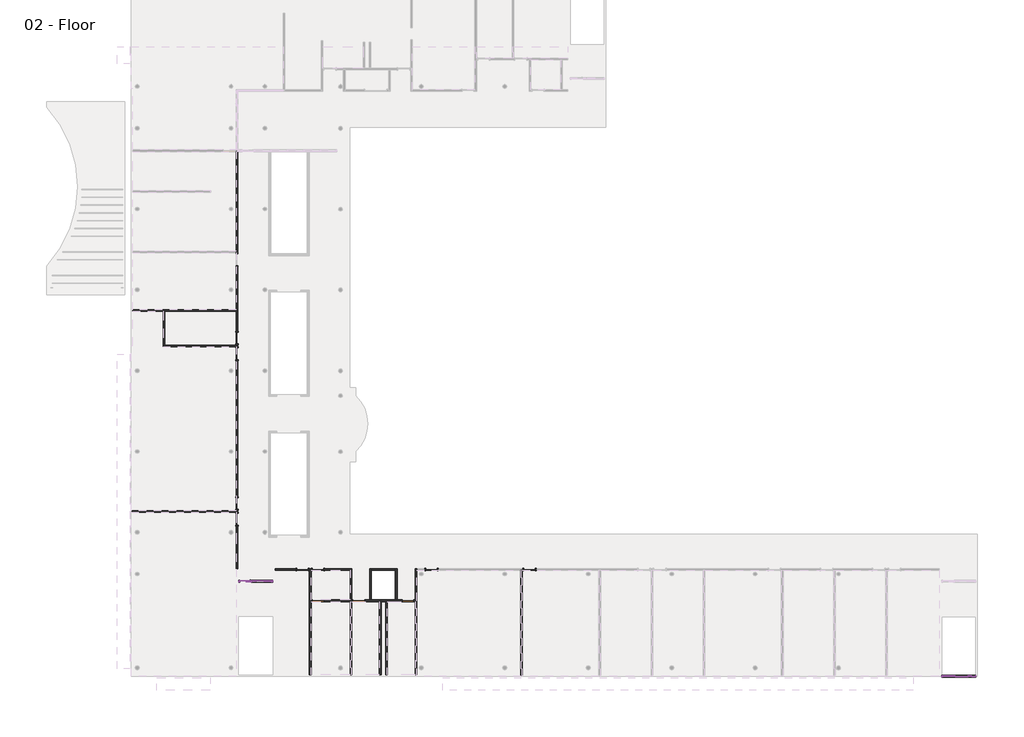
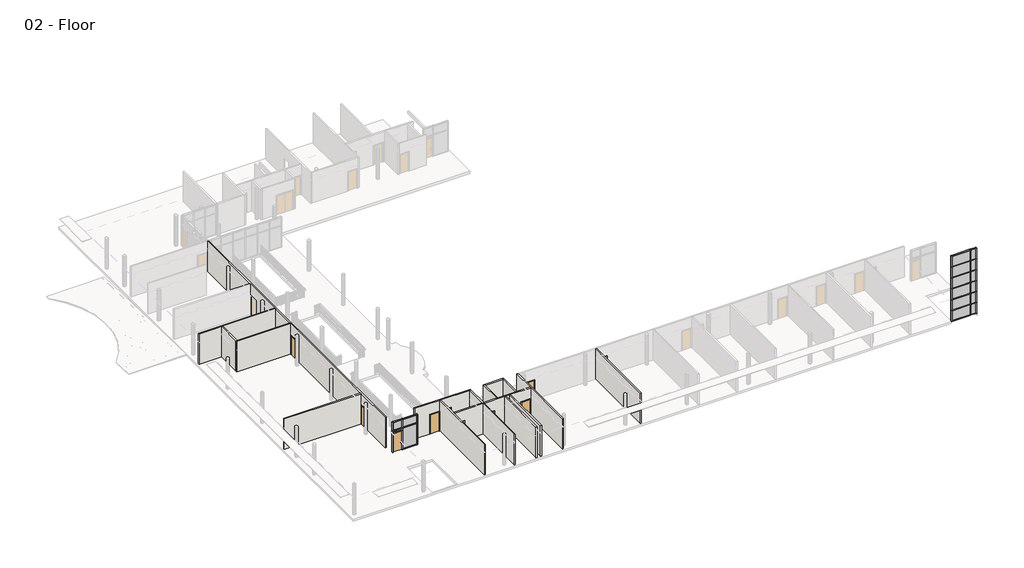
# One storey, part 1 of 5: 50 members, 16 plates, 16 walls, 12 doors.
"""IFC4 building model written with IfcOpenShell, lengths in millimetres."""

from ifc_helpers import new_model, si_unit, frame, origin, place, context, project, spatial, polyline, outline, extrude, faceted_brep, transform, mapped, element, save
from components import curtain_wall_sgl_glass_curtain_wall_sgl_glass_c2d4b377, door_a1797ceb, door_a3eb833a, member_2b49869a, member_75074519, member_18e22e2d, member_9193c932, member_4f18b2ac, member_7a85b04f, member_274b5bb4, member_3f1e2ae8, member_6186cc23, member_5d67b9fc, member_c327c56d, member_a50b3cda, member_410c6227, member_73c23c35, member_bcb6a316, member_d3323a85, member_7bd2cd2c, member_6be37683, system_panel_glazed_f46199af, system_panel_glazed_a2373be0, system_panel_glazed_4b84483b, system_panel_glazed_9dcaf0c5, system_panel_glazed_652e8fc4, system_panel_glazed_8dc8626f, system_panel_glazed_561e95a3, system_panel_glazed_c516a964

model = new_model("IFC4")

# Units and contexts
model_context = context("Model", 3, world=origin())
ifc_project = project(units=[si_unit("LENGTHUNIT", "METRE", prefix="MILLI")], contexts=[model_context])

# Site, building, storey
site = spatial("IfcSite", under=ifc_project)
building = spatial("IfcBuilding", under=site)
storey = spatial("IfcBuildingStorey", under=building, Name="02 - Floor", Elevation=3657.6)

# Doors
placement = place(None, origin())
curtain_wall_sgl_glass_curtain_wall_sgl_glass_shape = curtain_wall_sgl_glass_curtain_wall_sgl_glass_c2d4b377(model_context)
element("IfcDoor", 1, ObjectType="Curtain Wall Sgl Glass : Curtain Wall Sgl Glass", at=placement, inside=storey, context=model_context, shape_type="MappedRepresentation", body=[
    mapped(curtain_wall_sgl_glass_curtain_wall_sgl_glass_shape, transform((9081.4207476, 7356.4, 3657.6), x_axis=(-1.0, 0.0, 0.0), y_axis=(0.0, -1.0, 0.0), z_axis=(0.0, 0.0, 1.0))),
])
door_shape = door_a1797ceb(model_context)
element("IfcDoor", 2, ObjectType="Single-Flush : 36\" x 84\"", at=placement, inside=storey, context=model_context, shape_type="MappedRepresentation", body=[
    mapped(door_shape, transform((14732.9207476, 5832.4, 3657.6), x_axis=(-1.0, 0.0, 0.0), y_axis=(0.0, -1.0, 0.0), z_axis=(0.0, 0.0, 1.0))),
])
element("IfcDoor", 3, ObjectType="Single-Flush : 36\" x 84\"", at=placement, inside=storey, context=model_context, shape_type="MappedRepresentation", body=[
    mapped(door_shape, transform((17907.9207476, 5832.4, 3657.6), x_axis=(-1.0, 0.0, 0.0), y_axis=(0.0, -1.0, 0.0), z_axis=(0.0, 0.0, 1.0))),
])
element("IfcDoor", 4, ObjectType="Single-Flush : 36\" x 84\"", at=placement, inside=storey, context=model_context, shape_type="MappedRepresentation", body=[
    mapped(door_shape, transform((8421.0207476, 25085.6, 3657.6), x_axis=(0.0, 1.0, 0.0), y_axis=(-1.0, 0.0, 0.0), z_axis=(0.0, 0.0, 1.0))),
])
element("IfcDoor", 5, ObjectType="Single-Flush : 36\" x 84\"", at=placement, inside=storey, context=model_context, shape_type="MappedRepresentation", body=[
    mapped(door_shape, transform((8421.0207476, 12182.4, 3657.6), x_axis=(0.0, 1.0, 0.0), y_axis=(-1.0, 0.0, 0.0), z_axis=(0.0, 0.0, 1.0))),
])
element("IfcDoor", 6, ObjectType="Single-Flush : 36\" x 84\"", at=placement, inside=storey, context=model_context, shape_type="MappedRepresentation", body=[
    mapped(door_shape, transform((14732.9207476, 8270.8, 3657.6), x_axis=(-1.0, 0.0, 0.0), y_axis=(0.0, -1.0, 0.0), z_axis=(0.0, 0.0, 1.0))),
])
element("IfcDoor", 7, ObjectType="Single-Flush : 36\" x 84\"", at=placement, inside=storey, context=model_context, shape_type="MappedRepresentation", body=[
    mapped(door_shape, transform((23572.1207476, 8270.8, 3657.6), x_axis=(-1.0, 0.0, 0.0), y_axis=(0.0, -1.0, 0.0), z_axis=(0.0, 0.0, 1.0))),
])
element("IfcDoor", 8, ObjectType="Single-Flush : 36\" x 84\"", at=placement, inside=storey, context=model_context, shape_type="MappedRepresentation", body=[
    mapped(door_shape, transform((31204.8207476, 8270.8, 3657.6), x_axis=(-1.0, 0.0, 0.0), y_axis=(0.0, -1.0, 0.0), z_axis=(0.0, 0.0, 1.0))),
])
door_2_shape = door_a3eb833a(model_context)
element("IfcDoor", 9, ObjectType="Single-Flush : 36\" x 84\"", at=placement, inside=storey, context=model_context, shape_type="MappedRepresentation", body=[
    mapped(door_2_shape, transform((21743.3207476, 5832.4, 3657.6), x_axis=(1.0, 0.0, 0.0), y_axis=(0.0, 1.0, 0.0), z_axis=(0.0, 0.0, 1.0))),
])
element("IfcDoor", 10, ObjectType="Single-Flush : 36\" x 84\"", at=placement, inside=storey, context=model_context, shape_type="MappedRepresentation", body=[
    mapped(door_2_shape, transform((8421.0207476, 26304.8, 3657.6), x_axis=(0.0, -1.0, 0.0), y_axis=(1.0, 0.0, 0.0), z_axis=(0.0, 0.0, 1.0))),
])
element("IfcDoor", 11, ObjectType="Single-Flush : 36\" x 84\"", at=placement, inside=storey, context=model_context, shape_type="MappedRepresentation", body=[
    mapped(door_2_shape, transform((8421.0207476, 13401.6, 3657.6), x_axis=(0.0, -1.0, 0.0), y_axis=(1.0, 0.0, 0.0), z_axis=(0.0, 0.0, 1.0))),
])
element("IfcDoor", 12, ObjectType="Single-Flush : 36\" x 84\"", at=placement, inside=storey, context=model_context, shape_type="MappedRepresentation", body=[
    mapped(door_2_shape, transform((13513.7207476, 8270.8, 3657.6), x_axis=(1.0, 0.0, 0.0), y_axis=(0.0, 1.0, 0.0), z_axis=(0.0, 0.0, 1.0))),
])

# Members
member_shape = member_2b49869a(model_context)
element("IfcMember", 13, ObjectType="Rectangular Mullion : 2.5\" x 5\" rectangular", at=placement, inside=storey, context=model_context, shape_type="MappedRepresentation", body=[
    mapped(member_shape, transform((65380.5207476, -47.7, 9753.6), x_axis=(1.0, 0.0, 0.0), y_axis=(0.0, -1.0, 0.0), z_axis=(0.0, 0.0, -1.0))),
])
member_2_shape = member_75074519(model_context)
element("IfcMember", 14, ObjectType="Rectangular Mullion : 2.5\" x 5\" rectangular", at=placement, inside=storey, context=model_context, shape_type="MappedRepresentation", body=[
    mapped(member_2_shape, transform((63348.5207476, -47.7, 10972.8), x_axis=(-1.0, 0.0, 0.0), y_axis=(0.0, -1.0, 0.0), z_axis=(0.0, 0.0, 1.0))),
])
element("IfcMember", 15, ObjectType="Rectangular Mullion : 2.5\" x 5\" rectangular", at=placement, inside=storey, context=model_context, shape_type="MappedRepresentation", body=[
    mapped(member_2_shape, transform((66002.8207476, -47.7, 9753.6), x_axis=(1.0, 0.0, 0.0), y_axis=(0.0, -1.0, 0.0), z_axis=(0.0, 0.0, -1.0))),
])
member_3_shape = member_18e22e2d(model_context)
element("IfcMember", 16, ObjectType="Rectangular Mullion : 2.5\" x 5\" rectangular", at=placement, inside=storey, context=model_context, shape_type="MappedRepresentation", body=[
    mapped(member_3_shape, transform((9570.3707476, 7356.4, 6096.0), x_axis=(-1.0, 0.0, 0.0), y_axis=(0.0, 1.0, 0.0), z_axis=(0.0, 0.0, -1.0))),
])
member_4_shape = member_9193c932(model_context)
element("IfcMember", 17, ObjectType="Rectangular Mullion : 2.5\" x 5\" rectangular", at=placement, inside=storey, context=model_context, shape_type="MappedRepresentation", body=[
    mapped(member_4_shape, transform((11202.3207476, 7356.4, 7061.2), x_axis=(1.0, 0.0, 0.0), y_axis=(0.0, 1.0, 0.0), z_axis=(0.0, 0.0, 1.0))),
])
element("IfcMember", 18, ObjectType="Rectangular Mullion : 2.5\" x 5\" rectangular", at=placement, inside=storey, context=model_context, shape_type="MappedRepresentation", body=[
    mapped(member_4_shape, transform((8560.7207476, 7356.4, 6096.0), x_axis=(-1.0, 0.0, 0.0), y_axis=(0.0, 1.0, 0.0), z_axis=(0.0, 0.0, -1.0))),
])
member_5_shape = member_4f18b2ac(model_context)
element("IfcMember", 19, ObjectType="Rectangular Mullion : 2.5\" x 5\" rectangular", at=placement, inside=storey, context=model_context, shape_type="MappedRepresentation", body=[
    mapped(member_5_shape, transform((63412.0207476, -47.7, 3657.6), x_axis=(0.0, 0.0, -1.0), y_axis=(0.0, -1.0, 0.0), z_axis=(-1.0, 0.0, 0.0))),
])
element("IfcMember", 20, ObjectType="Rectangular Mullion : 2.5\" x 5\" rectangular", at=placement, inside=storey, context=model_context, shape_type="MappedRepresentation", body=[
    mapped(member_5_shape, transform((65348.7707476, -47.7, 10972.8), x_axis=(0.0, 0.0, 1.0), y_axis=(0.0, -1.0, 0.0), z_axis=(1.0, 0.0, 0.0))),
])
member_6_shape = member_7a85b04f(model_context)
element("IfcMember", 21, ObjectType="Rectangular Mullion : 2.5\" x 5\" rectangular", at=placement, inside=storey, context=model_context, shape_type="MappedRepresentation", body=[
    mapped(member_6_shape, transform((65348.7707476, -47.7, 4876.8), x_axis=(0.0, 0.0, 1.0), y_axis=(0.0, -1.0, 0.0), z_axis=(1.0, 0.0, 0.0))),
])
element("IfcMember", 22, ObjectType="Rectangular Mullion : 2.5\" x 5\" rectangular", at=placement, inside=storey, context=model_context, shape_type="MappedRepresentation", body=[
    mapped(member_6_shape, transform((65348.7707476, -47.7, 6096.0), x_axis=(0.0, 0.0, 1.0), y_axis=(0.0, -1.0, 0.0), z_axis=(1.0, 0.0, 0.0))),
])
element("IfcMember", 23, ObjectType="Rectangular Mullion : 2.5\" x 5\" rectangular", at=placement, inside=storey, context=model_context, shape_type="MappedRepresentation", body=[
    mapped(member_6_shape, transform((65348.7707476, -47.7, 7315.2), x_axis=(0.0, 0.0, 1.0), y_axis=(0.0, -1.0, 0.0), z_axis=(1.0, 0.0, 0.0))),
])
element("IfcMember", 24, ObjectType="Rectangular Mullion : 2.5\" x 5\" rectangular", at=placement, inside=storey, context=model_context, shape_type="MappedRepresentation", body=[
    mapped(member_6_shape, transform((65348.7707476, -47.7, 8534.4), x_axis=(0.0, 0.0, 1.0), y_axis=(0.0, -1.0, 0.0), z_axis=(1.0, 0.0, 0.0))),
])
element("IfcMember", 25, ObjectType="Rectangular Mullion : 2.5\" x 5\" rectangular", at=placement, inside=storey, context=model_context, shape_type="MappedRepresentation", body=[
    mapped(member_6_shape, transform((65348.7707476, -47.7, 9753.6), x_axis=(0.0, 0.0, 1.0), y_axis=(0.0, -1.0, 0.0), z_axis=(1.0, 0.0, 0.0))),
])
element("IfcMember", 26, ObjectType="Rectangular Mullion : 2.5\" x 5\" rectangular", at=placement, inside=storey, context=model_context, shape_type="MappedRepresentation", body=[
    mapped(member_shape, transform((65380.5207476, -47.7, 3657.6), x_axis=(1.0, 0.0, 0.0), y_axis=(0.0, -1.0, 0.0), z_axis=(0.0, 0.0, -1.0))),
])
element("IfcMember", 27, ObjectType="Rectangular Mullion : 2.5\" x 5\" rectangular", at=placement, inside=storey, context=model_context, shape_type="MappedRepresentation", body=[
    mapped(member_shape, transform((65380.5207476, -47.7, 4876.8), x_axis=(1.0, 0.0, 0.0), y_axis=(0.0, -1.0, 0.0), z_axis=(0.0, 0.0, -1.0))),
])
element("IfcMember", 28, ObjectType="Rectangular Mullion : 2.5\" x 5\" rectangular", at=placement, inside=storey, context=model_context, shape_type="MappedRepresentation", body=[
    mapped(member_shape, transform((65380.5207476, -47.7, 6096.0), x_axis=(1.0, 0.0, 0.0), y_axis=(0.0, -1.0, 0.0), z_axis=(0.0, 0.0, -1.0))),
])
element("IfcMember", 29, ObjectType="Rectangular Mullion : 2.5\" x 5\" rectangular", at=placement, inside=storey, context=model_context, shape_type="MappedRepresentation", body=[
    mapped(member_shape, transform((65380.5207476, -47.7, 7315.2), x_axis=(1.0, 0.0, 0.0), y_axis=(0.0, -1.0, 0.0), z_axis=(0.0, 0.0, -1.0))),
])
element("IfcMember", 30, ObjectType="Rectangular Mullion : 2.5\" x 5\" rectangular", at=placement, inside=storey, context=model_context, shape_type="MappedRepresentation", body=[
    mapped(member_shape, transform((65380.5207476, -47.7, 8534.4), x_axis=(1.0, 0.0, 0.0), y_axis=(0.0, -1.0, 0.0), z_axis=(0.0, 0.0, -1.0))),
])
member_7_shape = member_274b5bb4(model_context)
element("IfcMember", 31, ObjectType="Rectangular Mullion : 2.5\" x 5\" rectangular", at=placement, inside=storey, context=model_context, shape_type="MappedRepresentation", body=[
    mapped(member_7_shape, transform((65939.3207476, -47.7, 10972.8), x_axis=(0.0, 0.0, 1.0), y_axis=(0.0, -1.0, 0.0), z_axis=(1.0, 0.0, 0.0))),
])
element("IfcMember", 32, ObjectType="Rectangular Mullion : 2.5\" x 5\" rectangular", at=placement, inside=storey, context=model_context, shape_type="MappedRepresentation", body=[
    mapped(member_7_shape, transform((65412.2707476, -47.7, 3657.6), x_axis=(0.0, 0.0, -1.0), y_axis=(0.0, -1.0, 0.0), z_axis=(-1.0, 0.0, 0.0))),
])
member_8_shape = member_3f1e2ae8(model_context)
element("IfcMember", 33, ObjectType="Rectangular Mullion : 2.5\" x 5\" rectangular", at=placement, inside=storey, context=model_context, shape_type="MappedRepresentation", body=[
    mapped(member_8_shape, transform((65939.3207476, -47.7, 4876.8), x_axis=(0.0, 0.0, 1.0), y_axis=(0.0, -1.0, 0.0), z_axis=(1.0, 0.0, 0.0))),
])
element("IfcMember", 34, ObjectType="Rectangular Mullion : 2.5\" x 5\" rectangular", at=placement, inside=storey, context=model_context, shape_type="MappedRepresentation", body=[
    mapped(member_8_shape, transform((65939.3207476, -47.7, 6096.0), x_axis=(0.0, 0.0, 1.0), y_axis=(0.0, -1.0, 0.0), z_axis=(1.0, 0.0, 0.0))),
])
element("IfcMember", 35, ObjectType="Rectangular Mullion : 2.5\" x 5\" rectangular", at=placement, inside=storey, context=model_context, shape_type="MappedRepresentation", body=[
    mapped(member_8_shape, transform((65939.3207476, -47.7, 7315.2), x_axis=(0.0, 0.0, 1.0), y_axis=(0.0, -1.0, 0.0), z_axis=(1.0, 0.0, 0.0))),
])
element("IfcMember", 36, ObjectType="Rectangular Mullion : 2.5\" x 5\" rectangular", at=placement, inside=storey, context=model_context, shape_type="MappedRepresentation", body=[
    mapped(member_8_shape, transform((65939.3207476, -47.7, 8534.4), x_axis=(0.0, 0.0, 1.0), y_axis=(0.0, -1.0, 0.0), z_axis=(1.0, 0.0, 0.0))),
])
element("IfcMember", 37, ObjectType="Rectangular Mullion : 2.5\" x 5\" rectangular", at=placement, inside=storey, context=model_context, shape_type="MappedRepresentation", body=[
    mapped(member_8_shape, transform((65939.3207476, -47.7, 9753.6), x_axis=(0.0, 0.0, 1.0), y_axis=(0.0, -1.0, 0.0), z_axis=(1.0, 0.0, 0.0))),
])
element("IfcMember", 38, ObjectType="Rectangular Mullion : 2.5\" x 5\" rectangular", at=placement, inside=storey, context=model_context, shape_type="MappedRepresentation", body=[
    mapped(member_2_shape, transform((66002.8207476, -47.7, 3657.6), x_axis=(1.0, 0.0, 0.0), y_axis=(0.0, -1.0, 0.0), z_axis=(0.0, 0.0, -1.0))),
])
element("IfcMember", 39, ObjectType="Rectangular Mullion : 2.5\" x 5\" rectangular", at=placement, inside=storey, context=model_context, shape_type="MappedRepresentation", body=[
    mapped(member_2_shape, transform((66002.8207476, -47.7, 4876.8), x_axis=(1.0, 0.0, 0.0), y_axis=(0.0, -1.0, 0.0), z_axis=(0.0, 0.0, -1.0))),
])
element("IfcMember", 40, ObjectType="Rectangular Mullion : 2.5\" x 5\" rectangular", at=placement, inside=storey, context=model_context, shape_type="MappedRepresentation", body=[
    mapped(member_2_shape, transform((66002.8207476, -47.7, 6096.0), x_axis=(1.0, 0.0, 0.0), y_axis=(0.0, -1.0, 0.0), z_axis=(0.0, 0.0, -1.0))),
])
element("IfcMember", 41, ObjectType="Rectangular Mullion : 2.5\" x 5\" rectangular", at=placement, inside=storey, context=model_context, shape_type="MappedRepresentation", body=[
    mapped(member_2_shape, transform((66002.8207476, -47.7, 7315.2), x_axis=(1.0, 0.0, 0.0), y_axis=(0.0, -1.0, 0.0), z_axis=(0.0, 0.0, -1.0))),
])
element("IfcMember", 42, ObjectType="Rectangular Mullion : 2.5\" x 5\" rectangular", at=placement, inside=storey, context=model_context, shape_type="MappedRepresentation", body=[
    mapped(member_2_shape, transform((66002.8207476, -47.7, 8534.4), x_axis=(1.0, 0.0, 0.0), y_axis=(0.0, -1.0, 0.0), z_axis=(0.0, 0.0, -1.0))),
])
element("IfcMember", 43, ObjectType="Rectangular Mullion : 2.5\" x 5\" rectangular", at=placement, inside=storey, context=model_context, shape_type="MappedRepresentation", body=[
    mapped(member_2_shape, transform((63348.5207476, -47.7, 4876.8), x_axis=(-1.0, 0.0, 0.0), y_axis=(0.0, -1.0, 0.0), z_axis=(0.0, 0.0, 1.0))),
])
element("IfcMember", 44, ObjectType="Rectangular Mullion : 2.5\" x 5\" rectangular", at=placement, inside=storey, context=model_context, shape_type="MappedRepresentation", body=[
    mapped(member_2_shape, transform((63348.5207476, -47.7, 6096.0), x_axis=(-1.0, 0.0, 0.0), y_axis=(0.0, -1.0, 0.0), z_axis=(0.0, 0.0, 1.0))),
])
element("IfcMember", 45, ObjectType="Rectangular Mullion : 2.5\" x 5\" rectangular", at=placement, inside=storey, context=model_context, shape_type="MappedRepresentation", body=[
    mapped(member_2_shape, transform((63348.5207476, -47.7, 7315.2), x_axis=(-1.0, 0.0, 0.0), y_axis=(0.0, -1.0, 0.0), z_axis=(0.0, 0.0, 1.0))),
])
element("IfcMember", 46, ObjectType="Rectangular Mullion : 2.5\" x 5\" rectangular", at=placement, inside=storey, context=model_context, shape_type="MappedRepresentation", body=[
    mapped(member_2_shape, transform((63348.5207476, -47.7, 8534.4), x_axis=(-1.0, 0.0, 0.0), y_axis=(0.0, -1.0, 0.0), z_axis=(0.0, 0.0, 1.0))),
])
element("IfcMember", 47, ObjectType="Rectangular Mullion : 2.5\" x 5\" rectangular", at=placement, inside=storey, context=model_context, shape_type="MappedRepresentation", body=[
    mapped(member_2_shape, transform((63348.5207476, -47.7, 9753.6), x_axis=(-1.0, 0.0, 0.0), y_axis=(0.0, -1.0, 0.0), z_axis=(0.0, 0.0, 1.0))),
])
member_9_shape = member_6186cc23(model_context)
element("IfcMember", 48, ObjectType="Rectangular Mullion : 2.5\" x 5\" rectangular", at=placement, inside=storey, context=model_context, shape_type="MappedRepresentation", body=[
    mapped(member_9_shape, transform((9570.3707476, 7356.4, 3657.6), x_axis=(-1.0, 0.0, 0.0), y_axis=(0.0, 1.0, 0.0), z_axis=(0.0, 0.0, -1.0))),
])
member_10_shape = member_5d67b9fc(model_context)
element("IfcMember", 49, ObjectType="Rectangular Mullion : 2.5\" x 5\" rectangular", at=placement, inside=storey, context=model_context, shape_type="MappedRepresentation", body=[
    mapped(member_10_shape, transform((9570.3707476, 7356.4, 5822.95), x_axis=(-1.0, 0.0, 0.0), y_axis=(0.0, 1.0, 0.0), z_axis=(0.0, 0.0, -1.0))),
])
member_11_shape = member_c327c56d(model_context)
element("IfcMember", 50, ObjectType="Rectangular Mullion : 2.5\" x 5\" rectangular", at=placement, inside=storey, context=model_context, shape_type="MappedRepresentation", body=[
    mapped(member_11_shape, transform((11202.3207476, 7356.4, 6096.0), x_axis=(1.0, 0.0, 0.0), y_axis=(0.0, 1.0, 0.0), z_axis=(0.0, 0.0, 1.0))),
])
member_12_shape = member_a50b3cda(model_context)
element("IfcMember", 51, ObjectType="Rectangular Mullion : 2.5\" x 5\" rectangular", at=placement, inside=storey, context=model_context, shape_type="MappedRepresentation", body=[
    mapped(member_12_shape, transform((11202.3207476, 7356.4, 5822.95), x_axis=(1.0, 0.0, 0.0), y_axis=(0.0, 1.0, 0.0), z_axis=(0.0, 0.0, 1.0))),
])
member_13_shape = member_410c6227(model_context)
element("IfcMember", 52, ObjectType="Rectangular Mullion : 2.5\" x 5\" rectangular", at=placement, inside=storey, context=model_context, shape_type="MappedRepresentation", body=[
    mapped(member_13_shape, transform((8624.2207476, 7356.4, 6096.0), x_axis=(0.0, 0.0, 1.0), y_axis=(0.0, 1.0, 0.0), z_axis=(-1.0, 0.0, 0.0))),
])
element("IfcMember", 53, ObjectType="Rectangular Mullion : 2.5\" x 5\" rectangular", at=placement, inside=storey, context=model_context, shape_type="MappedRepresentation", body=[
    mapped(member_13_shape, transform((8624.2207476, 7356.4, 5822.95), x_axis=(0.0, 0.0, 1.0), y_axis=(0.0, 1.0, 0.0), z_axis=(-1.0, 0.0, 0.0))),
])
member_14_shape = member_73c23c35(model_context)
element("IfcMember", 54, ObjectType="Rectangular Mullion : 2.5\" x 5\" rectangular", at=placement, inside=storey, context=model_context, shape_type="MappedRepresentation", body=[
    mapped(member_14_shape, transform((8624.2207476, 7356.4, 7061.2), x_axis=(0.0, 0.0, 1.0), y_axis=(0.0, 1.0, 0.0), z_axis=(-1.0, 0.0, 0.0))),
])
element("IfcMember", 55, ObjectType="Rectangular Mullion : 2.5\" x 5\" rectangular", at=placement, inside=storey, context=model_context, shape_type="MappedRepresentation", body=[
    mapped(member_12_shape, transform((8560.7207476, 7356.4, 3657.6), x_axis=(-1.0, 0.0, 0.0), y_axis=(0.0, 1.0, 0.0), z_axis=(0.0, 0.0, -1.0))),
])
element("IfcMember", 56, ObjectType="Rectangular Mullion : 2.5\" x 5\" rectangular", at=placement, inside=storey, context=model_context, shape_type="MappedRepresentation", body=[
    mapped(member_11_shape, transform((8560.7207476, 7356.4, 5822.95), x_axis=(-1.0, 0.0, 0.0), y_axis=(0.0, 1.0, 0.0), z_axis=(0.0, 0.0, -1.0))),
])
member_15_shape = member_bcb6a316(model_context)
element("IfcMember", 57, ObjectType="Rectangular Mullion : 2.5\" x 5\" rectangular", at=placement, inside=storey, context=model_context, shape_type="MappedRepresentation", body=[
    mapped(member_15_shape, transform((11138.8207476, 7356.4, 3657.6), x_axis=(0.0, 0.0, -1.0), y_axis=(0.0, 1.0, 0.0), z_axis=(1.0, 0.0, 0.0))),
])
member_16_shape = member_d3323a85(model_context)
element("IfcMember", 58, ObjectType="Rectangular Mullion : 2.5\" x 5\" rectangular", at=placement, inside=storey, context=model_context, shape_type="MappedRepresentation", body=[
    mapped(member_16_shape, transform((9881.5207476, 7356.4, 3657.6), x_axis=(0.0, 0.0, -1.0), y_axis=(0.0, 1.0, 0.0), z_axis=(1.0, 0.0, 0.0))),
])
member_17_shape = member_7bd2cd2c(model_context)
element("IfcMember", 59, ObjectType="Rectangular Mullion : 2.5\" x 5\" rectangular", at=placement, inside=storey, context=model_context, shape_type="MappedRepresentation", body=[
    mapped(member_17_shape, transform((9881.5207476, 7356.4, 6096.0), x_axis=(0.0, 0.0, 1.0), y_axis=(0.0, 1.0, 0.0), z_axis=(-1.0, 0.0, 0.0))),
])
member_18_shape = member_6be37683(model_context)
element("IfcMember", 60, ObjectType="Rectangular Mullion : 2.5\" x 5\" rectangular", at=placement, inside=storey, context=model_context, shape_type="MappedRepresentation", body=[
    mapped(member_18_shape, transform((9602.1207476, 7356.4, 6096.0), x_axis=(0.0, 0.0, 1.0), y_axis=(0.0, 1.0, 0.0), z_axis=(-1.0, 0.0, 0.0))),
])
element("IfcMember", 61, ObjectType="Rectangular Mullion : 2.5\" x 5\" rectangular", at=placement, inside=storey, context=model_context, shape_type="MappedRepresentation", body=[
    mapped(member_15_shape, transform((9881.5207476, 7356.4, 7061.2), x_axis=(0.0, 0.0, 1.0), y_axis=(0.0, 1.0, 0.0), z_axis=(-1.0, 0.0, 0.0))),
])
element("IfcMember", 62, ObjectType="Rectangular Mullion : 2.5\" x 5\" rectangular", at=placement, inside=storey, context=model_context, shape_type="MappedRepresentation", body=[
    mapped(member_16_shape, transform((9602.1207476, 7356.4, 7061.2), x_axis=(0.0, 0.0, 1.0), y_axis=(0.0, 1.0, 0.0), z_axis=(-1.0, 0.0, 0.0))),
])

# Plates
system_panel_glazed_shape = system_panel_glazed_f46199af(model_context)
element("IfcPlate", 63, ObjectType="System Panel : Glazed", at=placement, inside=storey, context=model_context, shape_type="MappedRepresentation", body=[
    mapped(system_panel_glazed_shape, transform((64380.3957476, -47.7, 3721.1), x_axis=(1.0, 0.0, 0.0), y_axis=(0.0, 1.0, 0.0), z_axis=(0.0, 0.0, 1.0))),
])
element("IfcPlate", 64, ObjectType="System Panel : Glazed", at=placement, inside=storey, context=model_context, shape_type="MappedRepresentation", body=[
    mapped(system_panel_glazed_shape, transform((64380.3957476, -47.7, 9785.35), x_axis=(1.0, 0.0, 0.0), y_axis=(0.0, 1.0, 0.0), z_axis=(0.0, 0.0, 1.0))),
])
system_panel_glazed_2_shape = system_panel_glazed_a2373be0(model_context)
element("IfcPlate", 65, ObjectType="System Panel : Glazed", at=placement, inside=storey, context=model_context, shape_type="MappedRepresentation", body=[
    mapped(system_panel_glazed_2_shape, transform((64380.3957476, -47.7, 4908.55), x_axis=(1.0, 0.0, 0.0), y_axis=(0.0, 1.0, 0.0), z_axis=(0.0, 0.0, 1.0))),
])
element("IfcPlate", 66, ObjectType="System Panel : Glazed", at=placement, inside=storey, context=model_context, shape_type="MappedRepresentation", body=[
    mapped(system_panel_glazed_2_shape, transform((64380.3957476, -47.7, 6127.75), x_axis=(1.0, 0.0, 0.0), y_axis=(0.0, 1.0, 0.0), z_axis=(0.0, 0.0, 1.0))),
])
element("IfcPlate", 67, ObjectType="System Panel : Glazed", at=placement, inside=storey, context=model_context, shape_type="MappedRepresentation", body=[
    mapped(system_panel_glazed_2_shape, transform((64380.3957476, -47.7, 7346.95), x_axis=(1.0, 0.0, 0.0), y_axis=(0.0, 1.0, 0.0), z_axis=(0.0, 0.0, 1.0))),
])
element("IfcPlate", 68, ObjectType="System Panel : Glazed", at=placement, inside=storey, context=model_context, shape_type="MappedRepresentation", body=[
    mapped(system_panel_glazed_2_shape, transform((64380.3957476, -47.7, 8566.15), x_axis=(1.0, 0.0, 0.0), y_axis=(0.0, 1.0, 0.0), z_axis=(0.0, 0.0, 1.0))),
])
system_panel_glazed_3_shape = system_panel_glazed_4b84483b(model_context)
element("IfcPlate", 69, ObjectType="System Panel : Glazed", at=placement, inside=storey, context=model_context, shape_type="MappedRepresentation", body=[
    mapped(system_panel_glazed_3_shape, transform((65675.7957476, -47.7, 3721.1), x_axis=(1.0, 0.0, 0.0), y_axis=(0.0, 1.0, 0.0), z_axis=(0.0, 0.0, 1.0))),
])
element("IfcPlate", 70, ObjectType="System Panel : Glazed", at=placement, inside=storey, context=model_context, shape_type="MappedRepresentation", body=[
    mapped(system_panel_glazed_3_shape, transform((65675.7957476, -47.7, 9785.35), x_axis=(1.0, 0.0, 0.0), y_axis=(0.0, 1.0, 0.0), z_axis=(0.0, 0.0, 1.0))),
])
system_panel_glazed_4_shape = system_panel_glazed_9dcaf0c5(model_context)
element("IfcPlate", 71, ObjectType="System Panel : Glazed", at=placement, inside=storey, context=model_context, shape_type="MappedRepresentation", body=[
    mapped(system_panel_glazed_4_shape, transform((65675.7957476, -47.7, 4908.55), x_axis=(1.0, 0.0, 0.0), y_axis=(0.0, 1.0, 0.0), z_axis=(0.0, 0.0, 1.0))),
])
element("IfcPlate", 72, ObjectType="System Panel : Glazed", at=placement, inside=storey, context=model_context, shape_type="MappedRepresentation", body=[
    mapped(system_panel_glazed_4_shape, transform((65675.7957476, -47.7, 6127.75), x_axis=(1.0, 0.0, 0.0), y_axis=(0.0, 1.0, 0.0), z_axis=(0.0, 0.0, 1.0))),
])
element("IfcPlate", 73, ObjectType="System Panel : Glazed", at=placement, inside=storey, context=model_context, shape_type="MappedRepresentation", body=[
    mapped(system_panel_glazed_4_shape, transform((65675.7957476, -47.7, 7346.95), x_axis=(1.0, 0.0, 0.0), y_axis=(0.0, 1.0, 0.0), z_axis=(0.0, 0.0, 1.0))),
])
element("IfcPlate", 74, ObjectType="System Panel : Glazed", at=placement, inside=storey, context=model_context, shape_type="MappedRepresentation", body=[
    mapped(system_panel_glazed_4_shape, transform((65675.7957476, -47.7, 8566.15), x_axis=(1.0, 0.0, 0.0), y_axis=(0.0, 1.0, 0.0), z_axis=(0.0, 0.0, 1.0))),
])
system_panel_glazed_5_shape = system_panel_glazed_652e8fc4(model_context)
element("IfcPlate", 75, ObjectType="System Panel : Glazed", at=placement, inside=storey, context=model_context, shape_type="MappedRepresentation", body=[
    mapped(system_panel_glazed_5_shape, transform((9081.4207476, 7356.4, 6127.75), x_axis=(-1.0, 0.0, 0.0), y_axis=(0.0, -1.0, 0.0), z_axis=(0.0, 0.0, 1.0))),
])
system_panel_glazed_6_shape = system_panel_glazed_8dc8626f(model_context)
element("IfcPlate", 76, ObjectType="System Panel : Glazed", at=placement, inside=storey, context=model_context, shape_type="MappedRepresentation", body=[
    mapped(system_panel_glazed_6_shape, transform((9081.4207476, 7356.4, 5854.7), x_axis=(-1.0, 0.0, 0.0), y_axis=(0.0, -1.0, 0.0), z_axis=(0.0, 0.0, 1.0))),
])
system_panel_glazed_7_shape = system_panel_glazed_561e95a3(model_context)
element("IfcPlate", 77, ObjectType="System Panel : Glazed", at=placement, inside=storey, context=model_context, shape_type="MappedRepresentation", body=[
    mapped(system_panel_glazed_7_shape, transform((10370.4707476, 7356.4, 6127.75), x_axis=(-1.0, 0.0, 0.0), y_axis=(0.0, -1.0, 0.0), z_axis=(0.0, 0.0, 1.0))),
])
system_panel_glazed_8_shape = system_panel_glazed_c516a964(model_context)
element("IfcPlate", 78, ObjectType="System Panel : Glazed", at=placement, inside=storey, context=model_context, shape_type="MappedRepresentation", body=[
    mapped(system_panel_glazed_8_shape, transform((10370.4707476, 7356.4, 3721.1), x_axis=(-1.0, 0.0, 0.0), y_axis=(0.0, -1.0, 0.0), z_axis=(0.0, 0.0, 1.0))),
])

# Walls
element("IfcWall", 79, ObjectType="Generic - 5\"", at=placement, inside=storey, context=model_context, shape_type="Brep", body=[
    faceted_brep([(13970.9207476, 8207.3, 5791.2), (13970.9207476, 8207.3, 3657.6), (14059.8207476, 8207.3, 3657.6), (14186.8207476, 8207.3, 3657.6), (14275.7207476, 8207.3, 3657.6), (14275.7207476, 8207.3, 5791.2), (15190.1207476, 8207.3, 5791.2), (15190.1207476, 8207.3, 3657.6), (17234.8207476, 8207.3, 3657.6), (17361.8207476, 8207.3, 3657.6), (17361.8207476, 8207.3, 7061.2), (17234.8207476, 8207.3, 7061.2), (14186.8207476, 8207.3, 7061.2), (14059.8207476, 8207.3, 7061.2), (11405.5207476, 8207.3, 7061.2), (11405.5207476, 8207.3, 3657.6), (13056.5207476, 8207.3, 3657.6), (13056.5207476, 8207.3, 5791.2), (14275.7207476, 8334.3, 3657.6), (13970.9207476, 8334.3, 3657.6), (13970.9207476, 8334.3, 5791.2), (13056.5207476, 8334.3, 5791.2), (13056.5207476, 8334.3, 3657.6), (11405.5207476, 8334.3, 3657.6), (11405.5207476, 8334.3, 7061.2), (17361.8207476, 8334.3, 7061.2), (17361.8207476, 8334.3, 3657.6), (15190.1207476, 8334.3, 3657.6), (15190.1207476, 8334.3, 5791.2), (14275.7207476, 8334.3, 5791.2)], [[[0, 1, 2, 3, 4, 5, 6, 7, 8, 9, 10, 11, 12, 13, 14, 15, 16, 17]], [[18, 19, 20, 21, 22, 23, 24, 25, 26, 27, 28, 29]], [[4, 3, 2, 1, 19, 18]], [[27, 26, 9, 8, 7]], [[16, 15, 23, 22]], [[10, 9, 26, 25]], [[15, 14, 24, 23]], [[14, 13, 12, 11, 10, 25, 24]], [[5, 4, 18, 29]], [[6, 5, 29, 28]], [[7, 6, 28, 27]], [[20, 19, 1, 0]], [[21, 20, 0, 17]], [[22, 21, 17, 16]]]),
])
element("IfcWall", 80, ObjectType="Generic - 5\"", at=placement, inside=storey, context=model_context, shape_type="Brep", body=[
    faceted_brep([(2655.2207476, 25631.7, 3657.6), (8357.5207476, 25631.7, 3657.6), (8357.5207476, 25631.7, 7061.2), (2655.2207476, 25631.7, 7061.2), (2655.2207476, 25758.7, 3657.6), (2655.2207476, 25758.7, 7061.2), (2782.2207476, 25758.7, 7061.2), (8357.5207476, 25758.7, 7061.2), (8357.5207476, 25758.7, 3657.6), (2782.2207476, 25758.7, 3657.6)], [[[0, 1, 2, 3]], [[4, 5, 6, 7, 8, 9]], [[1, 0, 4, 9, 8]], [[0, 3, 5, 4]], [[2, 1, 8, 7]], [[3, 2, 7, 6, 5]]]),
])
element("IfcWall", 81, ObjectType="Generic - 5\"", at=placement, inside=storey, context=model_context, shape_type="SweptSolid", body=[
    extrude(outline(polyline([(30658.7207476, 8207.3), (30658.7207476, 15.8), (30531.7207476, 15.8), (30531.7207476, 8207.3), (30658.7207476, 8207.3)])), frame((0.0, 0.0, 3657.6), z_axis=(0.0, 0.0, 1.0), x_axis=(1.0, 0.0, 0.0)), (0.0, 0.0, 1.0), 3403.6),
])
element("IfcWall", 82, ObjectType="Generic - 5\"", at=placement, inside=storey, context=model_context, shape_type="SweptSolid", body=[
    extrude(outline(polyline([(8357.5207476, 12728.5), (242.2207476, 12728.5), (242.2207476, 12855.5), (8357.5207476, 12855.5), (8357.5207476, 12728.5)])), frame((0.0, 0.0, 3657.6), z_axis=(0.0, 0.0, 1.0), x_axis=(1.0, 0.0, 0.0)), (0.0, 0.0, 1.0), 3403.6),
])
element("IfcWall", 83, ObjectType="Generic - 5\"", at=placement, inside=storey, context=model_context, shape_type="Brep", body=[
    faceted_brep([(280.3207476, 28400.3, 3657.6), (2655.2207476, 28400.3, 3657.6), (2782.2207476, 28400.3, 3657.6), (8357.5207476, 28400.3, 3657.6), (8357.5207476, 28400.3, 7061.2), (2782.2207476, 28400.3, 7061.2), (2655.2207476, 28400.3, 7061.2), (280.3207476, 28400.3, 7061.2), (280.3207476, 28527.3, 3657.6), (280.3207476, 28527.3, 7061.2), (8357.5207476, 28527.3, 7061.2), (8357.5207476, 28527.3, 3657.6)], [[[0, 1, 2, 3, 4, 5, 6, 7]], [[8, 9, 10, 11]], [[3, 2, 1, 0, 8, 11]], [[4, 3, 11, 10]], [[0, 7, 9, 8]], [[7, 6, 5, 4, 10, 9]]]),
])
element("IfcWall", 84, ObjectType="Generic - 5\"", at=placement, inside=storey, context=model_context, shape_type="Brep", body=[
    faceted_brep([(14186.8207476, 53.9, 3657.6), (14186.8207476, 5768.9, 3657.6), (14186.8207476, 5895.9, 3657.6), (14186.8207476, 8207.3, 3657.6), (14186.8207476, 8207.3, 7061.2), (14186.8207476, 5895.9, 7061.2), (14186.8207476, 5768.9, 7061.2), (14186.8207476, 53.9, 7061.2), (14059.8207476, 53.9, 3657.6), (14059.8207476, 53.9, 7061.2), (14059.8207476, 8207.3, 7061.2), (14059.8207476, 8207.3, 3657.6)], [[[0, 1, 2, 3, 4, 5, 6, 7]], [[8, 9, 10, 11]], [[3, 2, 1, 0, 8, 11]], [[0, 7, 9, 8]], [[4, 3, 11, 10]], [[7, 6, 5, 4, 10, 9]]]),
])
element("IfcWall", 85, ObjectType="Generic - 5\"", at=placement, inside=storey, context=model_context, shape_type="Brep", body=[
    faceted_brep([(17361.8207476, 53.9, 3657.6), (17361.8207476, 5768.9, 3657.6), (17361.8207476, 5895.9, 3657.6), (17361.8207476, 8207.3, 3657.6), (17361.8207476, 8207.3, 7061.2), (17361.8207476, 5895.9, 7061.2), (17361.8207476, 5768.9, 7061.2), (17361.8207476, 53.9, 7061.2), (17234.8207476, 53.9, 3657.6), (17234.8207476, 53.9, 7061.2), (17234.8207476, 5768.9, 7061.2), (17234.8207476, 5895.9, 7061.2), (17234.8207476, 8207.3, 7061.2), (17234.8207476, 8207.3, 3657.6), (17234.8207476, 5895.9, 3657.6), (17234.8207476, 5768.9, 3657.6)], [[[0, 1, 2, 3, 4, 5, 6, 7]], [[8, 9, 10, 11, 12, 13, 14, 15]], [[3, 2, 1, 0, 8, 15, 14, 13]], [[0, 7, 9, 8]], [[4, 3, 13, 12]], [[7, 6, 5, 4, 12, 11, 10, 9]]]),
])
element("IfcWall", 86, ObjectType="Generic - 5\"", at=placement, inside=storey, context=model_context, shape_type="Brep", body=[
    faceted_brep([(14186.8207476, 5768.9, 7061.2), (14186.8207476, 5768.9, 3657.6), (14275.7207476, 5768.9, 3657.6), (14275.7207476, 5768.9, 5791.2), (15190.1207476, 5768.9, 5791.2), (15190.1207476, 5768.9, 3657.6), (17234.8207476, 5768.9, 3657.6), (17234.8207476, 5768.9, 7061.2), (14186.8207476, 5895.9, 3657.6), (14186.8207476, 5895.9, 7061.2), (17234.8207476, 5895.9, 7061.2), (17234.8207476, 5895.9, 3657.6), (15190.1207476, 5895.9, 3657.6), (15190.1207476, 5895.9, 5791.2), (14275.7207476, 5895.9, 5791.2), (14275.7207476, 5895.9, 3657.6)], [[[0, 1, 2, 3, 4, 5, 6, 7]], [[8, 9, 10, 11, 12, 13, 14, 15]], [[1, 8, 15, 2]], [[5, 12, 11, 6]], [[1, 0, 9, 8]], [[9, 0, 7, 10]], [[3, 2, 15, 14]], [[4, 3, 14, 13]], [[5, 4, 13, 12]], [[7, 6, 11, 10]]]),
    faceted_brep([(17450.7207476, 5768.9, 3657.6), (17450.7207476, 5768.9, 5791.2), (18365.1207476, 5768.9, 5791.2), (18365.1207476, 5768.9, 3657.6), (19520.8207476, 5768.9, 3657.6), (19647.8207476, 5768.9, 3657.6), (20003.4207476, 5768.9, 3657.6), (20130.4207476, 5768.9, 3657.6), (21286.1207476, 5768.9, 3657.6), (21286.1207476, 5768.9, 5791.2), (22200.5207476, 5768.9, 5791.2), (22200.5207476, 5768.9, 3657.6), (22302.1207476, 5768.9, 3657.6), (22302.1207476, 5768.9, 7061.2), (20130.4207476, 5768.9, 7061.2), (20003.4207476, 5768.9, 7061.2), (19647.8207476, 5768.9, 7061.2), (19520.8207476, 5768.9, 7061.2), (17361.8207476, 5768.9, 7061.2), (17361.8207476, 5768.9, 3657.6), (17450.7207476, 5895.9, 5791.2), (17450.7207476, 5895.9, 3657.6), (17361.8207476, 5895.9, 3657.6), (17361.8207476, 5895.9, 7061.2), (18758.8207476, 5895.9, 7061.2), (18885.8207476, 5895.9, 7061.2), (20765.4207476, 5895.9, 7061.2), (20892.4207476, 5895.9, 7061.2), (22302.1207476, 5895.9, 7061.2), (22302.1207476, 5895.9, 3657.6), (22200.5207476, 5895.9, 3657.6), (22200.5207476, 5895.9, 5791.2), (21286.1207476, 5895.9, 5791.2), (21286.1207476, 5895.9, 3657.6), (20892.4207476, 5895.9, 3657.6), (20765.4207476, 5895.9, 3657.6), (18885.8207476, 5895.9, 3657.6), (18758.8207476, 5895.9, 3657.6), (18365.1207476, 5895.9, 3657.6), (18365.1207476, 5895.9, 5791.2)], [[[0, 1, 2, 3, 4, 5, 6, 7, 8, 9, 10, 11, 12, 13, 14, 15, 16, 17, 18, 19]], [[20, 21, 22, 23, 24, 25, 26, 27, 28, 29, 30, 31, 32, 33, 34, 35, 36, 37, 38, 39]], [[21, 0, 19, 22]], [[3, 38, 37, 36, 35, 34, 33, 8, 7, 6, 5, 4]], [[11, 30, 29, 12]], [[13, 28, 27, 26, 25, 24, 23, 18, 17, 16, 15, 14]], [[1, 0, 21, 20]], [[2, 1, 20, 39]], [[3, 2, 39, 38]], [[31, 30, 11, 10]], [[32, 31, 10, 9]], [[33, 32, 9, 8]], [[13, 12, 29, 28]], [[19, 18, 23, 22]]]),
])
element("IfcWall", 87, ObjectType="Generic - 5\"", at=placement, inside=storey, context=model_context, shape_type="SweptSolid", body=[
    extrude(outline(polyline([(19520.8207476, 53.9), (19520.8207476, 5768.9), (19647.8207476, 5768.9), (19647.8207476, 53.9), (19520.8207476, 53.9)])), frame((0.0, 0.0, 3657.6), z_axis=(0.0, 0.0, 1.0), x_axis=(1.0, 0.0, 0.0)), (0.0, 0.0, 1.0), 3403.6),
])
element("IfcWall", 88, ObjectType="Generic - 5\"", at=placement, inside=storey, context=model_context, shape_type="SweptSolid", body=[
    extrude(outline(polyline([(20003.4207476, 53.9), (20003.4207476, 5768.9), (20130.4207476, 5768.9), (20130.4207476, 53.9), (20003.4207476, 53.9)])), frame((0.0, 0.0, 3657.6), z_axis=(0.0, 0.0, 1.0), x_axis=(1.0, 0.0, 0.0)), (0.0, 0.0, 1.0), 3403.6),
])
element("IfcWall", 89, ObjectType="Generic - 5\"", at=placement, inside=storey, context=model_context, shape_type="Brep", body=[
    faceted_brep([(18885.8207476, 5895.9, 3657.6), (18885.8207476, 8207.3, 3657.6), (18885.8207476, 8334.3, 3657.6), (18885.8207476, 8334.3, 7061.2), (18885.8207476, 8207.3, 7061.2), (18885.8207476, 5895.9, 7061.2), (18758.8207476, 5895.9, 3657.6), (18758.8207476, 5895.9, 7061.2), (18758.8207476, 8334.3, 7061.2), (18758.8207476, 8334.3, 3657.6)], [[[0, 1, 2, 3, 4, 5]], [[6, 7, 8, 9]], [[2, 1, 0, 6, 9]], [[3, 2, 9, 8]], [[0, 5, 7, 6]], [[5, 4, 3, 8, 7]]]),
])
element("IfcWall", 90, ObjectType="Generic - 5\"", at=placement, inside=storey, context=model_context, shape_type="Brep", body=[
    faceted_brep([(20892.4207476, 5895.9, 3657.6), (20892.4207476, 8334.3, 3657.6), (20892.4207476, 8334.3, 7061.2), (20892.4207476, 5895.9, 7061.2), (20765.4207476, 5895.9, 3657.6), (20765.4207476, 5895.9, 7061.2), (20765.4207476, 8207.3, 7061.2), (20765.4207476, 8334.3, 7061.2), (20765.4207476, 8334.3, 3657.6), (20765.4207476, 8207.3, 3657.6)], [[[0, 1, 2, 3]], [[4, 5, 6, 7, 8, 9]], [[1, 0, 4, 9, 8]], [[2, 1, 8, 7]], [[0, 3, 5, 4]], [[3, 2, 7, 6, 5]]]),
])
element("IfcWall", 91, ObjectType="Generic - 5\"", at=placement, inside=storey, context=model_context, shape_type="Brep", body=[
    faceted_brep([(22429.1207476, 53.9, 3657.6), (22429.1207476, 8207.3, 3657.6), (22429.1207476, 8334.3, 3657.6), (22429.1207476, 8334.3, 7061.2), (22429.1207476, 8207.3, 7061.2), (22429.1207476, 53.9, 7061.2), (22302.1207476, 53.9, 3657.6), (22302.1207476, 53.9, 7061.2), (22302.1207476, 5768.9, 7061.2), (22302.1207476, 5895.9, 7061.2), (22302.1207476, 8334.3, 7061.2), (22302.1207476, 8334.3, 3657.6), (22302.1207476, 5895.9, 3657.6), (22302.1207476, 5768.9, 3657.6)], [[[0, 1, 2, 3, 4, 5]], [[6, 7, 8, 9, 10, 11, 12, 13]], [[2, 1, 0, 6, 13, 12, 11]], [[3, 2, 11, 10]], [[0, 5, 7, 6]], [[5, 4, 3, 10, 9, 8, 7]]]),
])
element("IfcWall", 92, ObjectType="Generic - 5\"", at=placement, inside=storey, context=model_context, shape_type="SweptSolid", body=[
    extrude(outline(polyline([(2655.2207476, 25758.7), (2655.2207476, 28400.3), (2782.2207476, 28400.3), (2782.2207476, 25758.7), (2655.2207476, 25758.7)])), frame((0.0, 0.0, 3657.6), z_axis=(0.0, 0.0, 1.0), x_axis=(1.0, 0.0, 0.0)), (0.0, 0.0, 1.0), 3403.6),
])
element("IfcWall", 93, ObjectType="Generic - 5\"", at=placement, inside=storey, context=model_context, shape_type="Brep", body=[
    faceted_brep([(8357.5207476, 12944.4, 3657.6), (8357.5207476, 12855.5, 3657.6), (8357.5207476, 12728.5, 3657.6), (8357.5207476, 12639.6, 3657.6), (8357.5207476, 12639.6, 5791.2), (8357.5207476, 11725.2, 5791.2), (8357.5207476, 11725.2, 3657.6), (8357.5207476, 8334.3, 3657.6), (8357.5207476, 8334.3, 7061.2), (8357.5207476, 12728.5, 7061.2), (8357.5207476, 12855.5, 7061.2), (8357.5207476, 25631.7, 7061.2), (8357.5207476, 25758.7, 7061.2), (8357.5207476, 28400.3, 7061.2), (8357.5207476, 28527.3, 7061.2), (8357.5207476, 32959.6, 7061.2), (8357.5207476, 33086.6, 7061.2), (8357.5207476, 40833.6, 7061.2), (8357.5207476, 40833.6, 3657.6), (8357.5207476, 33086.6, 3657.6), (8357.5207476, 32959.6, 3657.6), (8357.5207476, 32870.7, 3657.6), (8357.5207476, 32870.7, 5791.2), (8357.5207476, 31956.3, 5791.2), (8357.5207476, 31956.3, 3657.6), (8357.5207476, 28527.3, 3657.6), (8357.5207476, 28400.3, 3657.6), (8357.5207476, 26762.0, 3657.6), (8357.5207476, 26762.0, 5791.2), (8357.5207476, 25847.6, 5791.2), (8357.5207476, 25847.6, 3657.6), (8357.5207476, 25758.7, 3657.6), (8357.5207476, 25631.7, 3657.6), (8357.5207476, 25542.8, 3657.6), (8357.5207476, 25542.8, 5791.2), (8357.5207476, 24628.4, 5791.2), (8357.5207476, 24628.4, 3657.6), (8357.5207476, 13858.8, 3657.6), (8357.5207476, 13858.8, 5791.2), (8357.5207476, 12944.4, 5791.2), (8484.5207476, 12639.6, 5791.2), (8484.5207476, 12639.6, 3657.6), (8484.5207476, 12944.4, 3657.6), (8484.5207476, 12944.4, 5791.2), (8484.5207476, 13858.8, 5791.2), (8484.5207476, 13858.8, 3657.6), (8484.5207476, 24628.4, 3657.6), (8484.5207476, 24628.4, 5791.2), (8484.5207476, 25542.8, 5791.2), (8484.5207476, 25542.8, 3657.6), (8484.5207476, 25847.6, 3657.6), (8484.5207476, 25847.6, 5791.2), (8484.5207476, 26762.0, 5791.2), (8484.5207476, 26762.0, 3657.6), (8484.5207476, 31956.3, 3657.6), (8484.5207476, 31956.3, 5791.2), (8484.5207476, 32870.7, 5791.2), (8484.5207476, 32870.7, 3657.6), (8484.5207476, 40833.6, 3657.6), (8484.5207476, 40833.6, 7061.2), (8484.5207476, 8334.3, 7061.2), (8484.5207476, 8334.3, 3657.6), (8484.5207476, 11725.2, 3657.6), (8484.5207476, 11725.2, 5791.2)], [[[0, 1, 2, 3, 4, 5, 6, 7, 8, 9, 10, 11, 12, 13, 14, 15, 16, 17, 18, 19, 20, 21, 22, 23, 24, 25, 26, 27, 28, 29, 30, 31, 32, 33, 34, 35, 36, 37, 38, 39]], [[40, 41, 42, 43, 44, 45, 46, 47, 48, 49, 50, 51, 52, 53, 54, 55, 56, 57, 58, 59, 60, 61, 62, 63]], [[58, 57, 21, 20, 19, 18]], [[50, 49, 33, 32, 31, 30]], [[27, 26, 25, 24, 54, 53]], [[42, 41, 3, 2, 1, 0]], [[37, 36, 46, 45]], [[62, 61, 7, 6]], [[8, 7, 61, 60]], [[18, 17, 59, 58]], [[17, 16, 15, 14, 13, 12, 11, 10, 9, 8, 60, 59]], [[22, 21, 57, 56]], [[23, 22, 56, 55]], [[24, 23, 55, 54]], [[51, 50, 30, 29]], [[52, 51, 29, 28]], [[53, 52, 28, 27]], [[34, 33, 49, 48]], [[35, 34, 48, 47]], [[36, 35, 47, 46]], [[43, 42, 0, 39]], [[44, 43, 39, 38]], [[45, 44, 38, 37]], [[4, 3, 41, 40]], [[5, 4, 40, 63]], [[6, 5, 63, 62]]]),
])
element("IfcWall", 94, ObjectType="Generic - 5\"", at=placement, inside=storey, context=model_context, shape_type="SweptSolid", body=[
    extrude(outline(polyline([(20765.4207476, 8207.3), (18885.8207476, 8207.3), (18885.8207476, 8334.3), (20765.4207476, 8334.3), (20765.4207476, 8207.3)])), frame((0.0, 0.0, 3657.6), z_axis=(0.0, 0.0, 1.0), x_axis=(1.0, 0.0, 0.0)), (0.0, 0.0, 1.0), 3403.6),
])

save(model, "model.ifc")
